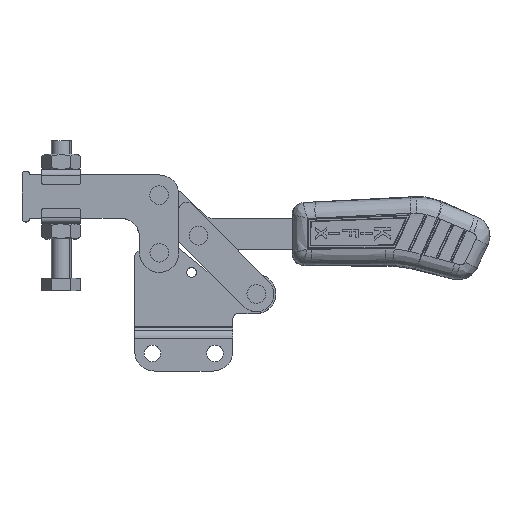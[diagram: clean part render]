
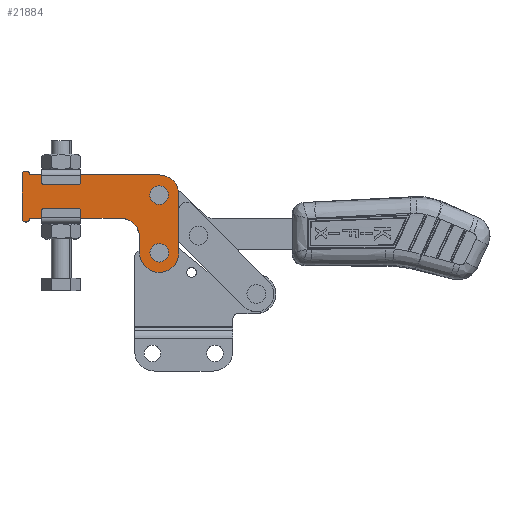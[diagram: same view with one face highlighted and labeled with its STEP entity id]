
A CAD part, top view. The second image highlights one B-rep face of the part: STEP entity #21884.
In plain terms, the highlighted planar face has unit normal (0, 0, 1) as drawn and (0, 0, -1) by its records, which use the part's own axes.
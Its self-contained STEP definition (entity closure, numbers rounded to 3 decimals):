
#363 = DIRECTION ( 'NONE',  ( 1., 0., 0. ) ) ;
#376 = AXIS2_PLACEMENT_3D ( 'NONE', #20333, #9429, #22122 ) ;
#377 = CIRCLE ( 'NONE', #18747, 4. ) ;
#709 = CARTESIAN_POINT ( 'NONE',  ( 74., -0.7, -4.25 ) ) ;
#797 = DIRECTION ( 'NONE',  ( -1., 0., 0. ) ) ;
#824 = CARTESIAN_POINT ( 'NONE',  ( 60., 28.7, -4.25 ) ) ;
#999 = EDGE_CURVE ( 'NONE', #16966, #18778, #2332, .T. ) ;
#1071 = VERTEX_POINT ( 'NONE', #21873 ) ;
#1101 = DIRECTION ( 'NONE',  ( 0., 0., 1. ) ) ;
#1125 = AXIS2_PLACEMENT_3D ( 'NONE', #18639, #7666, #20447 ) ;
#1213 = CIRCLE ( 'NONE', #12230, 4. ) ;
#1263 = DIRECTION ( 'NONE',  ( -1., 0., 0. ) ) ;
#1372 = ORIENTED_EDGE ( 'NONE', *, *, #2845, .F. ) ;
#1374 = CIRCLE ( 'NONE', #12714, 2. ) ;
#1433 = ORIENTED_EDGE ( 'NONE', *, *, #14660, .T. ) ;
#1444 = EDGE_LOOP ( 'NONE', ( #20460, #9929, #11154, #16639, #20839, #23355, #21224, #21662, #1372, #23512 ) ) ;
#1755 = VECTOR ( 'NONE', #21794, 1000. ) ;
#1864 = EDGE_CURVE ( 'NONE', #14474, #10545, #19435, .T. ) ;
#2052 = CARTESIAN_POINT ( 'NONE',  ( 0., -11., -4.25 ) ) ;
#2315 = CARTESIAN_POINT ( 'NONE',  ( 4., -11., -4.25 ) ) ;
#2332 = LINE ( 'NONE', #4508, #21283 ) ;
#2745 = DIRECTION ( 'NONE',  ( 0., 0., 1. ) ) ;
#2845 = EDGE_CURVE ( 'NONE', #10545, #5613, #1374, .T. ) ;
#3112 = ORIENTED_EDGE ( 'NONE', *, *, #13564, .T. ) ;
#3534 = DIRECTION ( 'NONE',  ( 0., -1., 0. ) ) ;
#3622 = CIRCLE ( 'NONE', #4216, 10. ) ;
#3650 = VERTEX_POINT ( 'NONE', #9095 ) ;
#3991 = EDGE_CURVE ( 'NONE', #18778, #22926, #10990, .T. ) ;
#4175 = FACE_BOUND ( 'NONE', #7586, .T. ) ;
#4204 = DIRECTION ( 'NONE',  ( 1., 0., 0. ) ) ;
#4216 = AXIS2_PLACEMENT_3D ( 'NONE', #19500, #8569, #21281 ) ;
#4508 = CARTESIAN_POINT ( 'NONE',  ( 60., 28.7, -4.25 ) ) ;
#5613 = VERTEX_POINT ( 'NONE', #10459 ) ;
#5831 = LINE ( 'NONE', #2315, #20469 ) ;
#5908 = CARTESIAN_POINT ( 'NONE',  ( 70., 28.7, -4.25 ) ) ;
#6001 = EDGE_LOOP ( 'NONE', ( #6428, #3112 ) ) ;
#6111 = VERTEX_POINT ( 'NONE', #19756 ) ;
#6428 = ORIENTED_EDGE ( 'NONE', *, *, #13389, .T. ) ;
#6628 = EDGE_CURVE ( 'NONE', #16953, #16966, #3622, .T. ) ;
#7112 = CARTESIAN_POINT ( 'NONE',  ( 80., -1., -4.25 ) ) ;
#7586 = EDGE_LOOP ( 'NONE', ( #18725, #1433 ) ) ;
#7666 = DIRECTION ( 'NONE',  ( 0., 0., 1. ) ) ;
#7814 = DIRECTION ( 'NONE',  ( 1., 0., 0. ) ) ;
#8569 = DIRECTION ( 'NONE',  ( 0., 0., 1. ) ) ;
#9085 = VERTEX_POINT ( 'NONE', #11221 ) ;
#9095 = CARTESIAN_POINT ( 'NONE',  ( 4., 11., -4.25 ) ) ;
#9429 = DIRECTION ( 'NONE',  ( 0., 0., 1. ) ) ;
#9727 = AXIS2_PLACEMENT_3D ( 'NONE', #10570, #16024, #1263 ) ;
#9856 = CARTESIAN_POINT ( 'NONE',  ( 66., 28.7, -4.25 ) ) ;
#9929 = ORIENTED_EDGE ( 'NONE', *, *, #16379, .F. ) ;
#10050 = CARTESIAN_POINT ( 'NONE',  ( 80., 28.7, -4.25 ) ) ;
#10459 = CARTESIAN_POINT ( 'NONE',  ( 4., -11., -4.25 ) ) ;
#10545 = VERTEX_POINT ( 'NONE', #2052 ) ;
#10570 = CARTESIAN_POINT ( 'NONE',  ( 2., 11., -4.25 ) ) ;
#10671 = AXIS2_PLACEMENT_3D ( 'NONE', #22346, #11535, #363 ) ;
#10675 = DIRECTION ( 'NONE',  ( 0., 0., 1. ) ) ;
#10946 = CARTESIAN_POINT ( 'NONE',  ( 50., 11., -4.25 ) ) ;
#10990 = CIRCLE ( 'NONE', #21810, 10. ) ;
#11146 = CIRCLE ( 'NONE', #22928, 4. ) ;
#11154 = ORIENTED_EDGE ( 'NONE', *, *, #3991, .F. ) ;
#11221 = CARTESIAN_POINT ( 'NONE',  ( 70., -11., -4.25 ) ) ;
#11535 = DIRECTION ( 'NONE',  ( 0., 0., 1. ) ) ;
#11970 = DIRECTION ( 'NONE',  ( 0., 0., -1. ) ) ;
#12040 = CIRCLE ( 'NONE', #376, 2. ) ;
#12120 = EDGE_CURVE ( 'NONE', #3650, #14474, #12040, .T. ) ;
#12230 = AXIS2_PLACEMENT_3D ( 'NONE', #5908, #18784, #7814 ) ;
#12272 = CARTESIAN_POINT ( 'NONE',  ( 70., 28.7, -4.25 ) ) ;
#12423 = PLANE ( 'NONE',  #9727 ) ;
#12714 = AXIS2_PLACEMENT_3D ( 'NONE', #13878, #2745, #15699 ) ;
#13389 = EDGE_CURVE ( 'NONE', #15729, #6111, #11146, .T. ) ;
#13564 = EDGE_CURVE ( 'NONE', #6111, #15729, #22727, .T. ) ;
#13714 = VERTEX_POINT ( 'NONE', #9856 ) ;
#13878 = CARTESIAN_POINT ( 'NONE',  ( 2., -11., -4.25 ) ) ;
#14037 = FACE_BOUND ( 'NONE', #6001, .T. ) ;
#14117 = DIRECTION ( 'NONE',  ( 1., 0., 0. ) ) ;
#14149 = EDGE_CURVE ( 'NONE', #9085, #22405, #16550, .T. ) ;
#14333 = CARTESIAN_POINT ( 'NONE',  ( 80., -1., -4.25 ) ) ;
#14470 = EDGE_CURVE ( 'NONE', #22405, #16953, #18850, .T. ) ;
#14474 = VERTEX_POINT ( 'NONE', #21788 ) ;
#14660 = EDGE_CURVE ( 'NONE', #13714, #1071, #1213, .T. ) ;
#15492 = DIRECTION ( 'NONE',  ( 0., -1., 0. ) ) ;
#15699 = DIRECTION ( 'NONE',  ( 1., 0., 0. ) ) ;
#15729 = VERTEX_POINT ( 'NONE', #709 ) ;
#16024 = DIRECTION ( 'NONE',  ( 0., 0., -1. ) ) ;
#16379 = EDGE_CURVE ( 'NONE', #22926, #3650, #20765, .T. ) ;
#16550 = CIRCLE ( 'NONE', #10671, 10. ) ;
#16639 = ORIENTED_EDGE ( 'NONE', *, *, #999, .F. ) ;
#16841 = EDGE_CURVE ( 'NONE', #5613, #9085, #5831, .T. ) ;
#16953 = VERTEX_POINT ( 'NONE', #10050 ) ;
#16966 = VERTEX_POINT ( 'NONE', #824 ) ;
#18275 = VECTOR ( 'NONE', #20002, 1000. ) ;
#18293 = FACE_OUTER_BOUND ( 'NONE', #1444, .T. ) ;
#18639 = CARTESIAN_POINT ( 'NONE',  ( 70., -0.7, -4.25 ) ) ;
#18725 = ORIENTED_EDGE ( 'NONE', *, *, #21844, .T. ) ;
#18747 = AXIS2_PLACEMENT_3D ( 'NONE', #12272, #1101, #14117 ) ;
#18778 = VERTEX_POINT ( 'NONE', #22706 ) ;
#18784 = DIRECTION ( 'NONE',  ( 0., 0., 1. ) ) ;
#18850 = LINE ( 'NONE', #7112, #18275 ) ;
#19435 = LINE ( 'NONE', #20771, #20721 ) ;
#19500 = CARTESIAN_POINT ( 'NONE',  ( 70., 28.7, -4.25 ) ) ;
#19756 = CARTESIAN_POINT ( 'NONE',  ( 66., -0.7, -4.25 ) ) ;
#20002 = DIRECTION ( 'NONE',  ( 0., 1., 0. ) ) ;
#20333 = CARTESIAN_POINT ( 'NONE',  ( 2., 11., -4.25 ) ) ;
#20447 = DIRECTION ( 'NONE',  ( 1., 0., 0. ) ) ;
#20460 = ORIENTED_EDGE ( 'NONE', *, *, #12120, .F. ) ;
#20469 = VECTOR ( 'NONE', #4204, 1000. ) ;
#20721 = VECTOR ( 'NONE', #15492, 1000. ) ;
#20765 = LINE ( 'NONE', #10946, #1755 ) ;
#20771 = CARTESIAN_POINT ( 'NONE',  ( 0., 11., -4.25 ) ) ;
#20839 = ORIENTED_EDGE ( 'NONE', *, *, #6628, .F. ) ;
#21095 = CARTESIAN_POINT ( 'NONE',  ( 50., 11., -4.25 ) ) ;
#21224 = ORIENTED_EDGE ( 'NONE', *, *, #14149, .F. ) ;
#21281 = DIRECTION ( 'NONE',  ( 1., 0., 0. ) ) ;
#21283 = VECTOR ( 'NONE', #3534, 1000. ) ;
#21531 = CARTESIAN_POINT ( 'NONE',  ( 70., -0.7, -4.25 ) ) ;
#21662 = ORIENTED_EDGE ( 'NONE', *, *, #16841, .F. ) ;
#21788 = CARTESIAN_POINT ( 'NONE',  ( 0., 11., -4.25 ) ) ;
#21794 = DIRECTION ( 'NONE',  ( -1., 0., 0. ) ) ;
#21810 = AXIS2_PLACEMENT_3D ( 'NONE', #22777, #11970, #797 ) ;
#21844 = EDGE_CURVE ( 'NONE', #1071, #13714, #377, .T. ) ;
#21873 = CARTESIAN_POINT ( 'NONE',  ( 74., 28.7, -4.25 ) ) ;
#21884 = ADVANCED_FACE ( 'NONE', ( #14037, #4175, #18293 ), #12423, .T. ) ;
#22122 = DIRECTION ( 'NONE',  ( -1., 0., 0. ) ) ;
#22346 = CARTESIAN_POINT ( 'NONE',  ( 70., -1., -4.25 ) ) ;
#22405 = VERTEX_POINT ( 'NONE', #14333 ) ;
#22706 = CARTESIAN_POINT ( 'NONE',  ( 60., 21., -4.25 ) ) ;
#22727 = CIRCLE ( 'NONE', #1125, 4. ) ;
#22777 = CARTESIAN_POINT ( 'NONE',  ( 50., 21., -4.25 ) ) ;
#22926 = VERTEX_POINT ( 'NONE', #21095 ) ;
#22928 = AXIS2_PLACEMENT_3D ( 'NONE', #21531, #10675, #23319 ) ;
#23319 = DIRECTION ( 'NONE',  ( 1., 0., 0. ) ) ;
#23355 = ORIENTED_EDGE ( 'NONE', *, *, #14470, .F. ) ;
#23512 = ORIENTED_EDGE ( 'NONE', *, *, #1864, .F. ) ;
